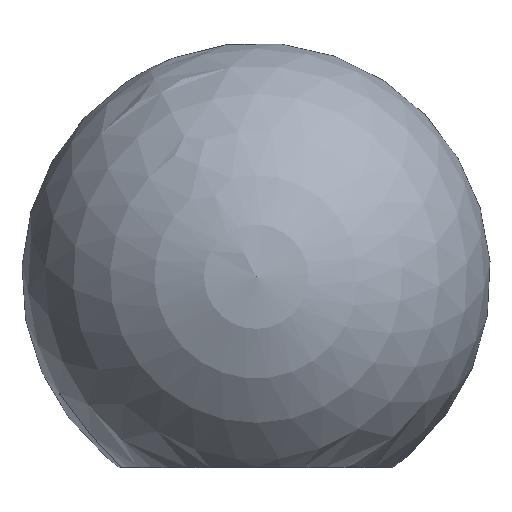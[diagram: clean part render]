
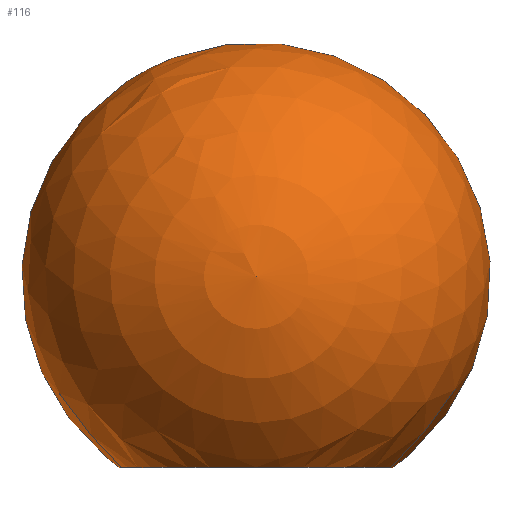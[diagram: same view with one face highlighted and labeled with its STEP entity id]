
A CAD part, top view. The second image highlights one B-rep face of the part: STEP entity #116.
In plain terms, the highlighted spherical face has radius 16 mm.
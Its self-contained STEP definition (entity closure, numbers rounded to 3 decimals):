
#14 = CARTESIAN_POINT ( 'NONE',  ( 0., 0., 0. ) ) ;
#19 = DIRECTION ( 'NONE',  ( 0., -1., 0. ) ) ;
#20 = DIRECTION ( 'NONE',  ( 0., 0., -1. ) ) ;
#26 = CARTESIAN_POINT ( 'NONE',  ( 0., 0., -9.327 ) ) ;
#31 = VERTEX_POINT ( 'NONE', #26 ) ;
#49 = SPHERICAL_SURFACE ( 'NONE', #141, 16. ) ;
#53 = ORIENTED_EDGE ( 'NONE', *, *, #160, .F. ) ;
#54 = AXIS2_PLACEMENT_3D ( 'NONE', #14, #19, #20 ) ;
#102 = CIRCLE ( 'NONE', #54, 9.327 ) ;
#106 = DIRECTION ( 'NONE',  ( 0., 0., 1. ) ) ;
#108 = DIRECTION ( 'NONE',  ( 1., 0., 0. ) ) ;
#116 = ADVANCED_FACE ( 'NONE', ( #147 ), #49, .T. ) ;
#140 = EDGE_LOOP ( 'NONE', ( #53 ) ) ;
#141 = AXIS2_PLACEMENT_3D ( 'NONE', #163, #106, #108 ) ;
#147 = FACE_OUTER_BOUND ( 'NONE', #140, .T. ) ;
#160 = EDGE_CURVE ( 'NONE', #31, #31, #102, .T. ) ;
#163 = CARTESIAN_POINT ( 'NONE',  ( 0., 13., 0. ) ) ;
